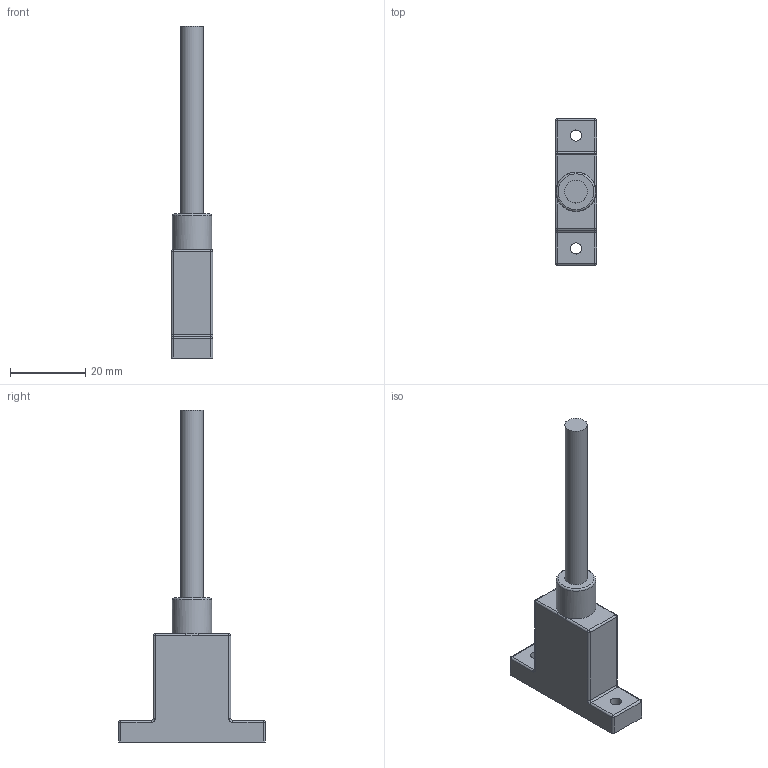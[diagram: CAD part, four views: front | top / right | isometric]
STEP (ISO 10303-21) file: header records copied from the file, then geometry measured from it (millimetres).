
FILE_DESCRIPTION(('FreeCAD Model'),'2;1');
FILE_NAME('Open CASCADE Shape Model','2026-06-02T14:31:34',(''),(''), 'Open CASCADE STEP processor 7.8','FreeCAD','Unknown');
FILE_SCHEMA(('AUTOMOTIVE_DESIGN { 1 0 10303 214 1 1 1 1 }'));
Length unit declared in the file: millimetre
Products named in the file (1): HDMI-AMPAF-XXXX_F
Bounding box: 11 x 39 x 88.3 mm (x, y, z)
Volume: 9240.5 mm3; surface area: 4712.1 mm2
Topology: 1 solids, 1 shells, 73 faces, 168 edges, 94 vertices
Faces by surface type: plane 29, cylinder 28, sphere 8, torus 5, bspline 3
Full cylindrical faces by diameter (mm): 3 x2, 5 x2, 6 x1, 10.5 x1
Entity records: 2074 total; most frequent: CARTESIAN_POINT 440, DIRECTION 354, ORIENTED_EDGE 320, EDGE_CURVE 160, AXIS2_PLACEMENT_3D 132, VERTEX_POINT 94, LINE 90, VECTOR 90
